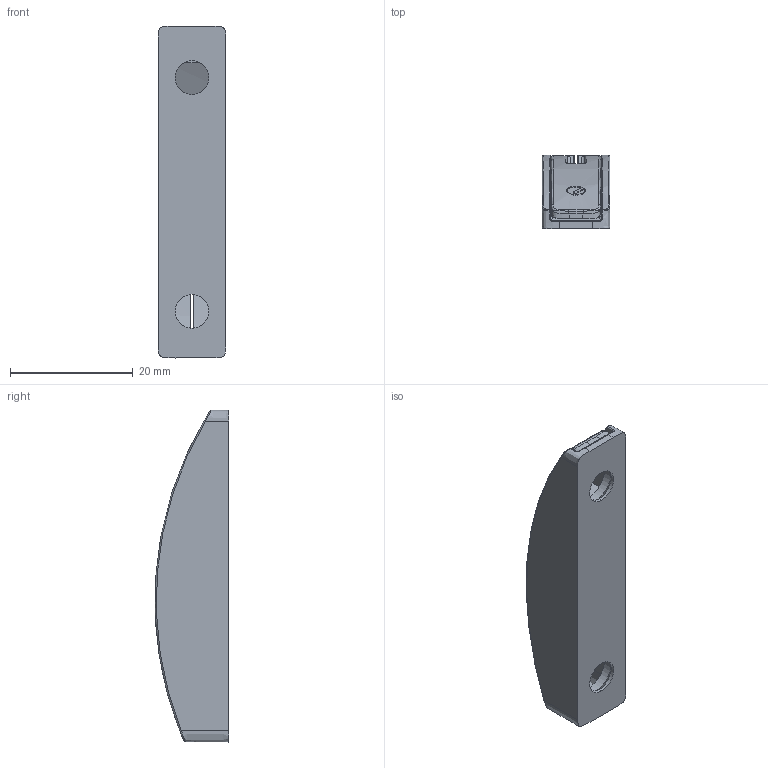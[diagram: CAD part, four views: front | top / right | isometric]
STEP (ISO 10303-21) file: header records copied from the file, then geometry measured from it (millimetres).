
FILE_DESCRIPTION((''),'2;1');
FILE_NAME('49503500_ASM','2022-07-22T14:46:19',('SimoneD'),(''),'CREO PARAMETRIC BY PTC INC, 2020053','CREO PARAMETRIC BY PTC INC, 2020053','');
FILE_SCHEMA(('CONFIG_CONTROL_DESIGN'));
Length unit declared in the file: millimetre
Products named in the file (3): 46302060; 46301220; 49503500_ASM
Assembly tree (2 placements, depth 2):
  49503500_ASM
    46302060
    46301220
Bounding box: 11 x 11.96 x 54 mm (x, y, z)
Volume: 3246.4 mm3; surface area: 4278.3 mm2
Topology: 2 solids, 2 shells, 145 faces, 368 edges, 227 vertices
Faces by surface type: cylinder 49, plane 33, bspline 32, extrusion 12, torus 12, cone 5, sphere 2
Entity records: 7941 total; most frequent: CARTESIAN_POINT 4697, ORIENTED_EDGE 732, DIRECTION 552, EDGE_CURVE 366, VERTEX_POINT 227, AXIS2_PLACEMENT_3D 209, B_SPLINE_CURVE_WITH_KNOTS 153, EDGE_LOOP 151
